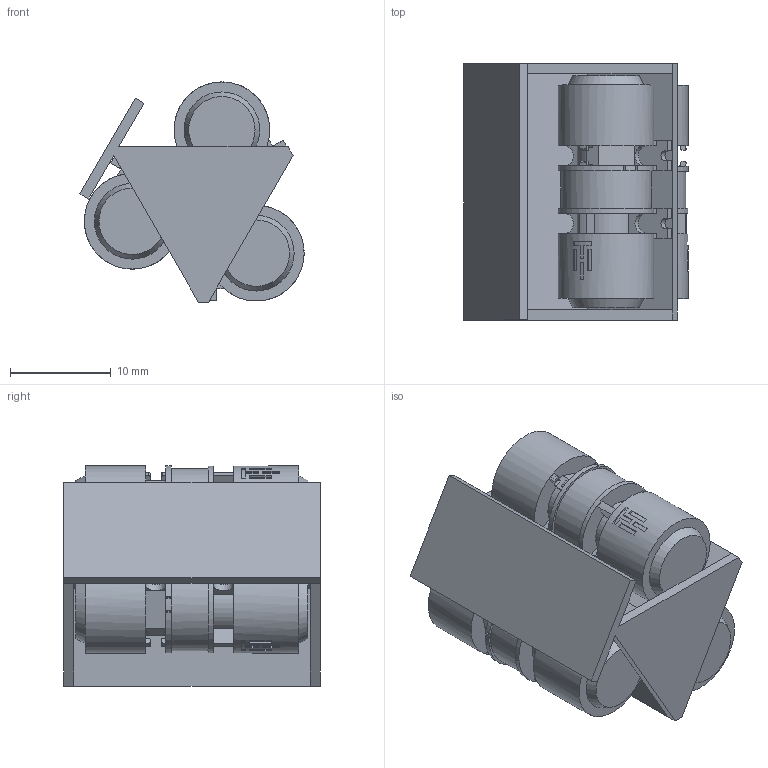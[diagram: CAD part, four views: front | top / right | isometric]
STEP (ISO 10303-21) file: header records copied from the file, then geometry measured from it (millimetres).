
FILE_DESCRIPTION(/* description */ (''),/* implementation_level */ '2;1');
FILE_NAME(/* name */ '3x drake spiral v10.step',/* time_stamp */ '2023-06-06T15:46:59-04:00',/* author */ (''),/* organization */ (''),/* preprocessor_version */ 'ST-DEVELOPER v19.2',/* originating_system */ 'Autodesk Translation Framework v12.6.0.85',/* authorisation */ '');
FILE_SCHEMA (('AUTOMOTIVE_DESIGN { 1 0 10303 214 3 1 1 }'));
Length unit declared in the file: millimetre
Products named in the file (3): 3x drake spiral; TacHammer Drake; motor holder
Assembly tree (4 placements, depth 2):
  3x drake spiral
    TacHammer Drake  x3
    motor holder
Bounding box: 22.28 x 25.46 x 21.87 mm (x, y, z)
Volume: 5537.6 mm3; surface area: 5917.3 mm2
Topology: 4 solids, 4 shells, 555 faces, 1512 edges, 974 vertices
Faces by surface type: plane 396, cylinder 147, cone 6, torus 6
Full cylindrical faces by diameter (mm): 9 x3, 9.5 x6
Entity records: 6447 total; most frequent: CARTESIAN_POINT 1124, DIRECTION 1094, ORIENTED_EDGE 1092, EDGE_CURVE 546, LINE 414, VECTOR 414, VERTEX_POINT 350, AXIS2_PLACEMENT_3D 340
